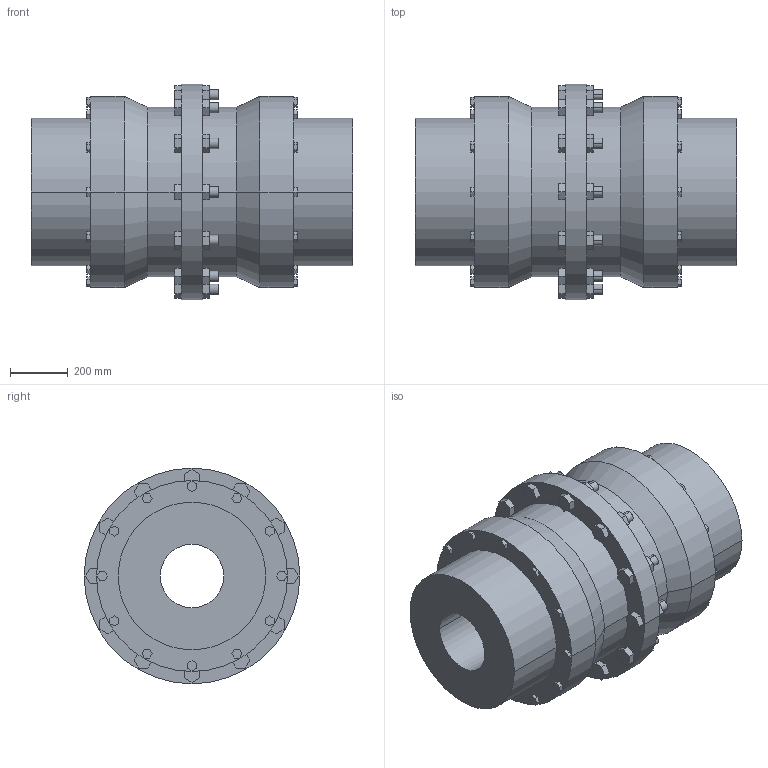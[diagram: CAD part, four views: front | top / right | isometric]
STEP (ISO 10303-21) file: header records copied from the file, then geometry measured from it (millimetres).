
FILE_DESCRIPTION((''),'2;1');
FILE_NAME('A19716500-0_ASM','2019-05-23T',('AB_Roschiwal'),('RENK AG'),'PRO/ENGINEER BY PARAMETRIC TECHNOLOGY CORPORATION, 2015440','PRO/ENGINEER BY PARAMETRIC TECHNOLOGY CORPORATION, 2015440','');
FILE_SCHEMA(('CONFIG_CONTROL_DESIGN'));
Length unit declared in the file: millimetre
Products named in the file (3): SBK315_GEHAEUSE; SBK315_NABE; A19716500-0_ASM
Assembly tree (3 placements, depth 2):
  A19716500-0_ASM
    SBK315_GEHAEUSE
    SBK315_NABE  x2
Bounding box: 1112 x 745 x 745 mm (x, y, z)
Volume: 195450624 mm3; surface area: 5786017.6 mm2
Topology: 3 solids, 3 shells, 422 faces, 1036 edges, 688 vertices
Faces by surface type: plane 362, cylinder 56, cone 4
Entity records: 12052 total; most frequent: CARTESIAN_POINT 2100, ORIENTED_EDGE 2024, DIRECTION 1940, EDGE_CURVE 1012, VECTOR 916, LINE 916, VERTEX_POINT 672, AXIS2_PLACEMENT_3D 512
